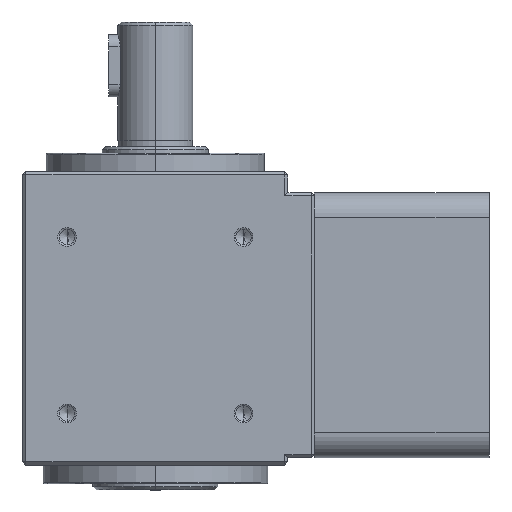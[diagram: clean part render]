
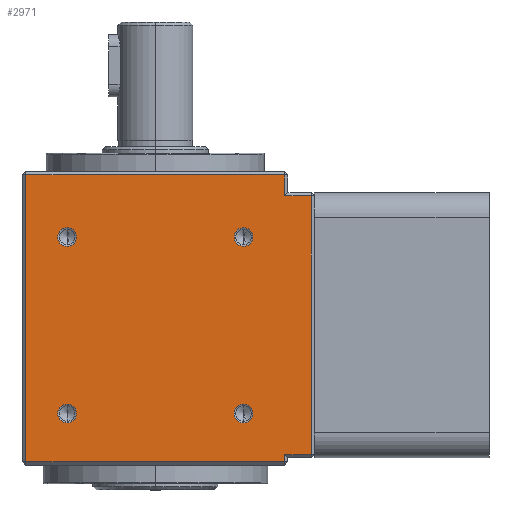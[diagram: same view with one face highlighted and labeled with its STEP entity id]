
A CAD part, left-side view. The second image highlights one B-rep face of the part: STEP entity #2971.
In plain terms, the highlighted planar face has unit normal (-1, 0, 0) as drawn and (1, 0, 0) by its records, which use the part's own axes.
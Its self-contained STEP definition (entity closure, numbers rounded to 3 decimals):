
#14 = DIRECTION ( 'NONE',  ( 0., 0., -1. ) ) ;
#371 = VECTOR ( 'NONE', #25495, 1000. ) ;
#591 = CARTESIAN_POINT ( 'NONE',  ( 21.25, -14.142, 40.242 ) ) ;
#676 = AXIS2_PLACEMENT_3D ( 'NONE', #14133, #21181, #28613 ) ;
#1162 = VERTEX_POINT ( 'NONE', #4136 ) ;
#1426 = EDGE_CURVE ( 'NONE', #11875, #29075, #14371, .T. ) ;
#1527 = DIRECTION ( 'NONE',  ( 0., -1., 0. ) ) ;
#1606 = CIRCLE ( 'NONE', #1904, 1.5 ) ;
#1705 = CARTESIAN_POINT ( 'NONE',  ( 21.25, -20.75, 48.35 ) ) ;
#1904 = AXIS2_PLACEMENT_3D ( 'NONE', #16297, #30875, #14 ) ;
#2320 = DIRECTION ( 'NONE',  ( 0., 0., -1. ) ) ;
#2694 = EDGE_LOOP ( 'NONE', ( #28610, #4434, #17110, #14623, #11318, #5256, #18679, #29654 ) ) ;
#2971 = ADVANCED_FACE ( 'NONE', ( #12436, #28848, #10579, #20231, #24342 ), #9017, .F. ) ;
#3208 = DIRECTION ( 'NONE',  ( 0., 0., -1. ) ) ;
#3229 = AXIS2_PLACEMENT_3D ( 'NONE', #23327, #18546, #16393 ) ;
#3304 = CARTESIAN_POINT ( 'NONE',  ( 21.25, -25., 53. ) ) ;
#3342 = CIRCLE ( 'NONE', #26738, 1.5 ) ;
#3385 = EDGE_CURVE ( 'NONE', #23387, #21684, #6826, .T. ) ;
#3492 = LINE ( 'NONE', #6705, #12068 ) ;
#3566 = ORIENTED_EDGE ( 'NONE', *, *, #3385, .F. ) ;
#4038 = CARTESIAN_POINT ( 'NONE',  ( 21.25, -21.25, 49.5 ) ) ;
#4136 = CARTESIAN_POINT ( 'NONE',  ( 21.25, -25., 48.35 ) ) ;
#4434 = ORIENTED_EDGE ( 'NONE', *, *, #24355, .T. ) ;
#4460 = CARTESIAN_POINT ( 'NONE',  ( 21.25, -20.75, 49.5 ) ) ;
#4494 = CARTESIAN_POINT ( 'NONE',  ( 21.25, -20.75, 53. ) ) ;
#4724 = CIRCLE ( 'NONE', #676, 1.5 ) ;
#4999 = EDGE_CURVE ( 'NONE', #12783, #28396, #3342, .T. ) ;
#5256 = ORIENTED_EDGE ( 'NONE', *, *, #21717, .T. ) ;
#5466 = EDGE_CURVE ( 'NONE', #29075, #7723, #3492, .T. ) ;
#5581 = CIRCLE ( 'NONE', #15445, 1.5 ) ;
#6669 = CIRCLE ( 'NONE', #3229, 1.5 ) ;
#6705 = CARTESIAN_POINT ( 'NONE',  ( 21.25, 20.75, 53. ) ) ;
#6826 = CIRCLE ( 'NONE', #22882, 1.5 ) ;
#7226 = VECTOR ( 'NONE', #28559, 1000. ) ;
#7379 = CARTESIAN_POINT ( 'NONE',  ( 21.25, 21.25, 3.5 ) ) ;
#7723 = VERTEX_POINT ( 'NONE', #21197 ) ;
#8030 = VECTOR ( 'NONE', #24118, 1000. ) ;
#8480 = EDGE_CURVE ( 'NONE', #16017, #15998, #5581, .T. ) ;
#8806 = EDGE_CURVE ( 'NONE', #21421, #18941, #6669, .T. ) ;
#8947 = EDGE_LOOP ( 'NONE', ( #12337, #3566 ) ) ;
#9017 = PLANE ( 'NONE',  #12321 ) ;
#9104 = DIRECTION ( 'NONE',  ( 0., 0., 1. ) ) ;
#9114 = CARTESIAN_POINT ( 'NONE',  ( 21.25, 14.142, 40.242 ) ) ;
#9918 = LINE ( 'NONE', #28254, #28577 ) ;
#10273 = DIRECTION ( 'NONE',  ( 1., 0., 0. ) ) ;
#10579 = FACE_BOUND ( 'NONE', #14620, .T. ) ;
#11318 = ORIENTED_EDGE ( 'NONE', *, *, #5466, .T. ) ;
#11507 = ORIENTED_EDGE ( 'NONE', *, *, #19324, .F. ) ;
#11845 = DIRECTION ( 'NONE',  ( 1., 0., 0. ) ) ;
#11875 = VERTEX_POINT ( 'NONE', #17385 ) ;
#12068 = VECTOR ( 'NONE', #9104, 1000. ) ;
#12151 = LINE ( 'NONE', #20028, #29295 ) ;
#12273 = VERTEX_POINT ( 'NONE', #28535 ) ;
#12321 = AXIS2_PLACEMENT_3D ( 'NONE', #15583, #12961, #29653 ) ;
#12337 = ORIENTED_EDGE ( 'NONE', *, *, #27536, .F. ) ;
#12436 = FACE_OUTER_BOUND ( 'NONE', #2694, .T. ) ;
#12592 = EDGE_CURVE ( 'NONE', #27386, #21073, #9918, .T. ) ;
#12668 = DIRECTION ( 'NONE',  ( 0., 1., 0. ) ) ;
#12783 = VERTEX_POINT ( 'NONE', #14583 ) ;
#12961 = DIRECTION ( 'NONE',  ( -1., 0., 0. ) ) ;
#13925 = CARTESIAN_POINT ( 'NONE',  ( 21.25, -14.142, 13.458 ) ) ;
#13940 = DIRECTION ( 'NONE',  ( 0., 0., -1. ) ) ;
#14133 = CARTESIAN_POINT ( 'NONE',  ( 21.25, 14.142, 13.458 ) ) ;
#14249 = CIRCLE ( 'NONE', #24036, 1.5 ) ;
#14290 = VERTEX_POINT ( 'NONE', #29337 ) ;
#14371 = LINE ( 'NONE', #7379, #8030 ) ;
#14583 = CARTESIAN_POINT ( 'NONE',  ( 21.25, 14.142, 14.958 ) ) ;
#14620 = EDGE_LOOP ( 'NONE', ( #23727, #25038 ) ) ;
#14623 = ORIENTED_EDGE ( 'NONE', *, *, #1426, .T. ) ;
#14887 = CARTESIAN_POINT ( 'NONE',  ( 21.25, -14.142, 43.242 ) ) ;
#15107 = VECTOR ( 'NONE', #1527, 1000. ) ;
#15119 = CARTESIAN_POINT ( 'NONE',  ( 21.25, -14.142, 14.958 ) ) ;
#15445 = AXIS2_PLACEMENT_3D ( 'NONE', #17525, #27311, #22287 ) ;
#15580 = ORIENTED_EDGE ( 'NONE', *, *, #4999, .F. ) ;
#15583 = CARTESIAN_POINT ( 'NONE',  ( 21.25, -21.25, 53. ) ) ;
#15661 = EDGE_CURVE ( 'NONE', #15998, #16017, #17024, .T. ) ;
#15998 = VERTEX_POINT ( 'NONE', #14887 ) ;
#16017 = VERTEX_POINT ( 'NONE', #591 ) ;
#16297 = CARTESIAN_POINT ( 'NONE',  ( 21.25, 14.142, 41.742 ) ) ;
#16393 = DIRECTION ( 'NONE',  ( 0., 0., -1. ) ) ;
#16398 = EDGE_CURVE ( 'NONE', #28396, #12783, #4724, .T. ) ;
#16475 = ORIENTED_EDGE ( 'NONE', *, *, #16398, .F. ) ;
#17024 = CIRCLE ( 'NONE', #19420, 1.5 ) ;
#17110 = ORIENTED_EDGE ( 'NONE', *, *, #25821, .T. ) ;
#17385 = CARTESIAN_POINT ( 'NONE',  ( 21.25, -20.75, 3.5 ) ) ;
#17525 = CARTESIAN_POINT ( 'NONE',  ( 21.25, -14.142, 41.742 ) ) ;
#18099 = EDGE_CURVE ( 'NONE', #21073, #1162, #21386, .T. ) ;
#18378 = EDGE_LOOP ( 'NONE', ( #11507, #26811 ) ) ;
#18503 = CARTESIAN_POINT ( 'NONE',  ( 21.25, -14.142, 11.958 ) ) ;
#18546 = DIRECTION ( 'NONE',  ( 1., 0., 0. ) ) ;
#18679 = ORIENTED_EDGE ( 'NONE', *, *, #12592, .T. ) ;
#18939 = DIRECTION ( 'NONE',  ( 0., 0., -1. ) ) ;
#18941 = VERTEX_POINT ( 'NONE', #9114 ) ;
#19293 = VECTOR ( 'NONE', #3208, 1000. ) ;
#19324 = EDGE_CURVE ( 'NONE', #18941, #21421, #1606, .T. ) ;
#19379 = LINE ( 'NONE', #4038, #371 ) ;
#19420 = AXIS2_PLACEMENT_3D ( 'NONE', #30543, #28444, #28137 ) ;
#19874 = LINE ( 'NONE', #4494, #7226 ) ;
#20028 = CARTESIAN_POINT ( 'NONE',  ( 21.25, -21.25, 6.85 ) ) ;
#20231 = FACE_BOUND ( 'NONE', #18378, .T. ) ;
#20376 = CARTESIAN_POINT ( 'NONE',  ( 21.25, 14.142, 43.242 ) ) ;
#21073 = VERTEX_POINT ( 'NONE', #1705 ) ;
#21181 = DIRECTION ( 'NONE',  ( 1., 0., 0. ) ) ;
#21197 = CARTESIAN_POINT ( 'NONE',  ( 21.25, 20.75, 49.5 ) ) ;
#21386 = LINE ( 'NONE', #27900, #15107 ) ;
#21421 = VERTEX_POINT ( 'NONE', #20376 ) ;
#21506 = LINE ( 'NONE', #3304, #19293 ) ;
#21684 = VERTEX_POINT ( 'NONE', #18503 ) ;
#21717 = EDGE_CURVE ( 'NONE', #7723, #27386, #19379, .T. ) ;
#22100 = DIRECTION ( 'NONE',  ( 0., 0., -1. ) ) ;
#22287 = DIRECTION ( 'NONE',  ( 0., 0., -1. ) ) ;
#22508 = CARTESIAN_POINT ( 'NONE',  ( 21.25, 14.142, 13.458 ) ) ;
#22882 = AXIS2_PLACEMENT_3D ( 'NONE', #30915, #11845, #13940 ) ;
#23327 = CARTESIAN_POINT ( 'NONE',  ( 21.25, 14.142, 41.742 ) ) ;
#23387 = VERTEX_POINT ( 'NONE', #15119 ) ;
#23409 = EDGE_CURVE ( 'NONE', #1162, #14290, #21506, .T. ) ;
#23727 = ORIENTED_EDGE ( 'NONE', *, *, #8480, .F. ) ;
#24036 = AXIS2_PLACEMENT_3D ( 'NONE', #13925, #25880, #2320 ) ;
#24118 = DIRECTION ( 'NONE',  ( 0., 1., 0. ) ) ;
#24342 = FACE_BOUND ( 'NONE', #26079, .T. ) ;
#24355 = EDGE_CURVE ( 'NONE', #14290, #12273, #12151, .T. ) ;
#24414 = CARTESIAN_POINT ( 'NONE',  ( 21.25, 20.75, 3.5 ) ) ;
#25038 = ORIENTED_EDGE ( 'NONE', *, *, #15661, .F. ) ;
#25495 = DIRECTION ( 'NONE',  ( 0., -1., 0. ) ) ;
#25821 = EDGE_CURVE ( 'NONE', #12273, #11875, #19874, .T. ) ;
#25880 = DIRECTION ( 'NONE',  ( 1., 0., 0. ) ) ;
#26079 = EDGE_LOOP ( 'NONE', ( #16475, #15580 ) ) ;
#26656 = CARTESIAN_POINT ( 'NONE',  ( 21.25, 14.142, 11.958 ) ) ;
#26738 = AXIS2_PLACEMENT_3D ( 'NONE', #22508, #10273, #22100 ) ;
#26811 = ORIENTED_EDGE ( 'NONE', *, *, #8806, .F. ) ;
#27311 = DIRECTION ( 'NONE',  ( 1., 0., 0. ) ) ;
#27386 = VERTEX_POINT ( 'NONE', #4460 ) ;
#27536 = EDGE_CURVE ( 'NONE', #21684, #23387, #14249, .T. ) ;
#27900 = CARTESIAN_POINT ( 'NONE',  ( 21.25, -25.5, 48.35 ) ) ;
#28137 = DIRECTION ( 'NONE',  ( 0., 0., -1. ) ) ;
#28254 = CARTESIAN_POINT ( 'NONE',  ( 21.25, -20.75, 53. ) ) ;
#28396 = VERTEX_POINT ( 'NONE', #26656 ) ;
#28444 = DIRECTION ( 'NONE',  ( 1., 0., 0. ) ) ;
#28535 = CARTESIAN_POINT ( 'NONE',  ( 21.25, -20.75, 6.85 ) ) ;
#28559 = DIRECTION ( 'NONE',  ( 0., 0., -1. ) ) ;
#28577 = VECTOR ( 'NONE', #18939, 1000. ) ;
#28610 = ORIENTED_EDGE ( 'NONE', *, *, #23409, .T. ) ;
#28613 = DIRECTION ( 'NONE',  ( 0., 0., -1. ) ) ;
#28848 = FACE_BOUND ( 'NONE', #8947, .T. ) ;
#29075 = VERTEX_POINT ( 'NONE', #24414 ) ;
#29295 = VECTOR ( 'NONE', #12668, 1000. ) ;
#29337 = CARTESIAN_POINT ( 'NONE',  ( 21.25, -25., 6.85 ) ) ;
#29653 = DIRECTION ( 'NONE',  ( 0., 0., 1. ) ) ;
#29654 = ORIENTED_EDGE ( 'NONE', *, *, #18099, .T. ) ;
#30543 = CARTESIAN_POINT ( 'NONE',  ( 21.25, -14.142, 41.742 ) ) ;
#30875 = DIRECTION ( 'NONE',  ( 1., 0., 0. ) ) ;
#30915 = CARTESIAN_POINT ( 'NONE',  ( 21.25, -14.142, 13.458 ) ) ;
